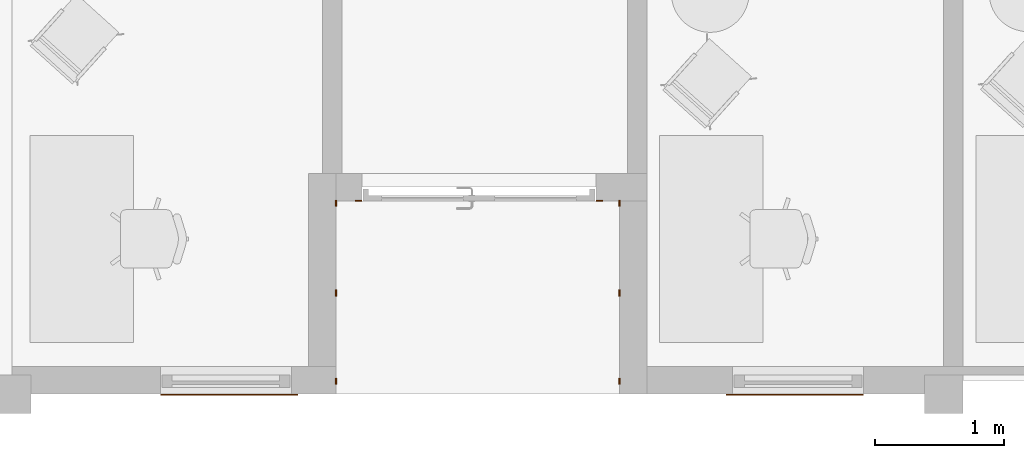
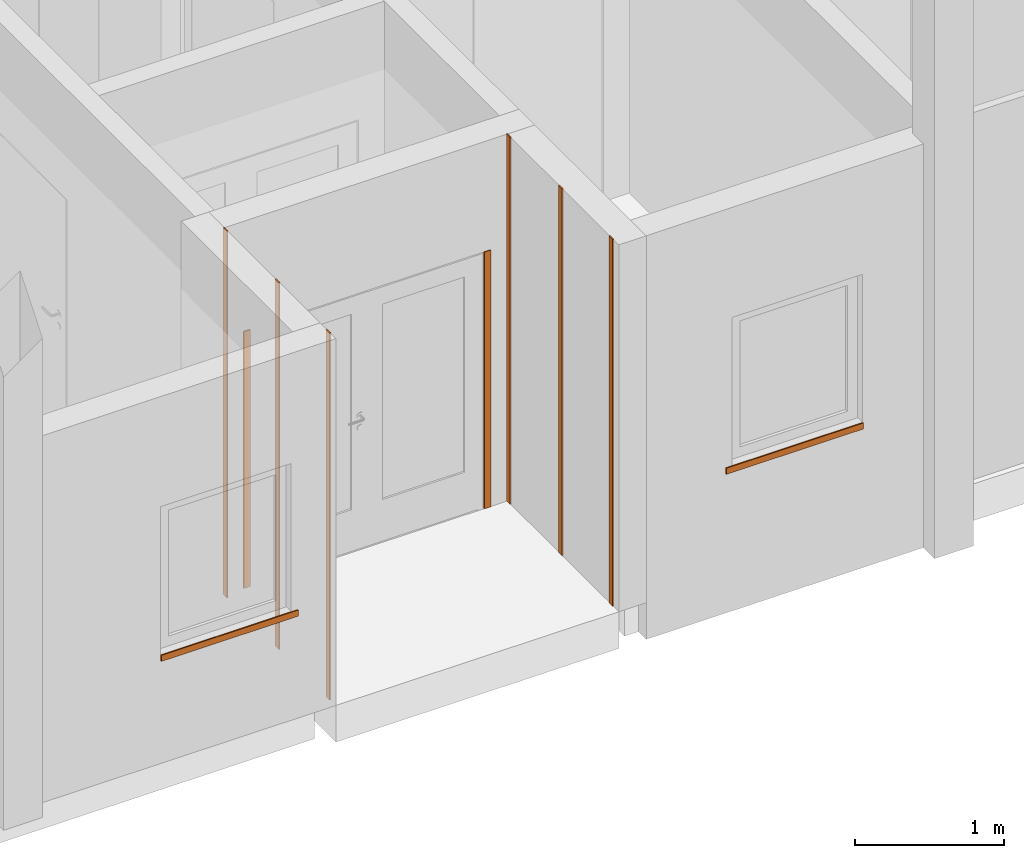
# One storey, part 55 of 58: 10 proxies.
"""IFC2X3 building model written with IfcOpenShell, lengths in millimetres."""

from ifc_helpers import new_model, entity, si_unit, converted_unit, derived_unit, direction, frame, frame_2d, origin, origin_2d_with_axis, place, context, subcontext, project, spatial, rectangle, extrude, source, transform, mapped, material, type_object, type_shapes, element, save


model = new_model("IFC2X3")

# Units and contexts
model_context = context("Model", 3, precision=0.01, world=origin(), true_north=direction((0.7716245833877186, 0.6360782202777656)))
body_context = subcontext(model_context, "Body", "Model", "MODEL_VIEW")
ifc_project = project(units=[si_unit("LENGTHUNIT", "METRE", prefix="MILLI"), si_unit("AREAUNIT", "SQUARE_METRE"), converted_unit("PLANEANGLEUNIT", "DEGREE", entity("IfcPlaneAngleMeasure", 0.017453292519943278), si_unit("PLANEANGLEUNIT", "RADIAN"), dimensions=[0, 0, 0, 0, 0, 0, 0]), derived_unit("THERMALTRANSMITTANCEUNIT", [(si_unit("MASSUNIT", "GRAM", prefix="KILO"), 1), (si_unit("THERMODYNAMICTEMPERATUREUNIT", "KELVIN"), -1), (si_unit("TIMEUNIT", "SECOND"), -3)])], contexts=[model_context])

# Site, building, storey
site_placement = place(None, origin())
site = spatial("IfcSite", under=ifc_project, at=site_placement, Name="Default", CompositionType="ELEMENT")
building_placement = place(site_placement, origin())
building = spatial("IfcBuilding", under=site, at=building_placement, CompositionType="ELEMENT")
storey_placement = place(building_placement, frame((0.0, 0.0, 31140.0)))
storey = spatial("IfcBuildingStorey", under=building, at=storey_placement, Name="PLAN U1", CompositionType="ELEMENT", Elevation=31140.000000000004)

# Proxies
ifc_material = material(Name="Aluminum")
building_element_proxy_type_1 = type_object("IfcBuildingElementProxyType", Name="Fasade profil, VER:Fasade profil 100x50", PredefinedType="NOTDEFINED", material=ifc_material)
shared_shape_1 = source(origin(), body_context, "Body", "SweptSolid", [
    extrude(rectangle(XDim=50.000000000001, YDim=10.000000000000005, at=frame_2d((-2.1316282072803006e-14, 0.0), x_axis=(1.0, 0.0))), frame((25.0, -5.0, 0.0), z_axis=(0.0, 0.0, 1.0), x_axis=(-1.0, 0.0, 0.0)), (0.0, 0.0, 1.0), 2999.9999999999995),
])
type_shapes(building_element_proxy_type_1, [shared_shape_1])
for number, where, z_axis, x_axis, name in (
    (1, (261217.9244464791, 54765.25555007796, 0.0), (0.0, 0.0, 1.0), (0.0, 1.0, 0.0), "Fasade profil, VER:Fasade profil 100x50"),
    (2, (261217.9244464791, 53390.25555007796, 0.0), (0.0, 0.0, 1.0), (0.0, 1.0, 0.0), "Fasade profil, VER:Fasade profil 100x50"),
    (3, (261217.9244464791, 54070.25555007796, 0.0), (0.0, 0.0, 1.0), (0.0, 1.0, 0.0), "Fasade profil, VER:Fasade profil 100x50"),
    (4, (263407.92444647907, 54765.255550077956, 0.0), (0.0, 0.0, 1.0), (0.0, 1.0, 0.0), "Fasade profil, VER:Fasade profil 100x50"),
    (5, (263407.92444647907, 53390.255550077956, 0.0), (0.0, 0.0, 1.0), (0.0, 1.0, 0.0), "Fasade profil, VER:Fasade profil 100x50"),
    (6, (263407.92444647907, 54070.255550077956, 0.0), (0.0, 0.0, 1.0), (0.0, 1.0, 0.0), "Fasade profil, VER:Fasade profil 100x50"),
):
    element("IfcBuildingElementProxy", number, at=place(storey_placement, frame(where, z_axis=z_axis, x_axis=x_axis)), inside=storey, type_object=building_element_proxy_type_1, material=ifc_material, Name=name, ObjectType="Fasade profil, VER:Fasade profil 100x50", context=body_context, shape_type="MappedRepresentation", body=[
        mapped(shared_shape_1, transform((0.0, 0.0, 0.0), scale=1.0)),
    ])
building_element_proxy_type_2 = type_object("IfcBuildingElementProxyType", Name="Fasade profil, HOR:Fasade profil 100x50", PredefinedType="NOTDEFINED", material=ifc_material)
shared_shape_2 = source(origin(), body_context, "Body", "SweptSolid", [
    extrude(rectangle(XDim=1060.0000000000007, YDim=9.999999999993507, at=origin_2d_with_axis()), frame((530.0, -5.0, 0.0), z_axis=(0.0, 0.0, 1.0), x_axis=(-1.0, 0.0, 0.0)), (0.0, 0.0, 1.0), 50.00000000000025),
])
type_shapes(building_element_proxy_type_2, [shared_shape_2])
for number, where, name in (
    (7, (264237.5564872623, 53315.2555500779, 840.0), "Fasade profil, HOR:Fasade profil 100x50"),
    (8, (259867.55648726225, 53315.25555007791, 840.0), "Fasade profil, HOR:Fasade profil 100x50"),
):
    element("IfcBuildingElementProxy", number, at=place(storey_placement, frame(where)), inside=storey, type_object=building_element_proxy_type_2, material=ifc_material, Name=name, ObjectType="Fasade profil, HOR:Fasade profil 100x50", context=body_context, shape_type="MappedRepresentation", body=[
        mapped(shared_shape_2, transform((0.0, 0.0, 0.0), scale=1.0)),
    ])
building_element_proxy_type_3 = type_object("IfcBuildingElementProxyType", Name="Fasade profil, VER:Fasade profil 100x50", PredefinedType="NOTDEFINED", material=ifc_material)
shared_shape_3 = source(origin(), body_context, "Body", "SweptSolid", [
    extrude(rectangle(XDim=50.000000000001, YDim=10.000000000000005, at=frame_2d((-2.1316282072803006e-14, 0.0), x_axis=(1.0, 0.0))), frame((25.0, -5.0, 0.0), z_axis=(0.0, 0.0, 1.0), x_axis=(-1.0, 0.0, 0.0)), (0.0, 0.0, 1.0), 2099.9999999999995),
])
type_shapes(building_element_proxy_type_3, [shared_shape_3])
for number, where, name in (
    (9, (261372.92444647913, 54815.255550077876, 0.0), "Fasade profil, VER:Fasade profil 100x50"),
    (10, (263232.9244464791, 54815.25555007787, 0.0), "Fasade profil, VER:Fasade profil 100x50"),
):
    element("IfcBuildingElementProxy", number, at=place(storey_placement, frame(where)), inside=storey, type_object=building_element_proxy_type_3, material=ifc_material, Name=name, ObjectType="Fasade profil, VER:Fasade profil 100x50", context=body_context, shape_type="MappedRepresentation", body=[
        mapped(shared_shape_3, transform((0.0, 0.0, 0.0), scale=1.0)),
    ])

save(model, "model.ifc")
